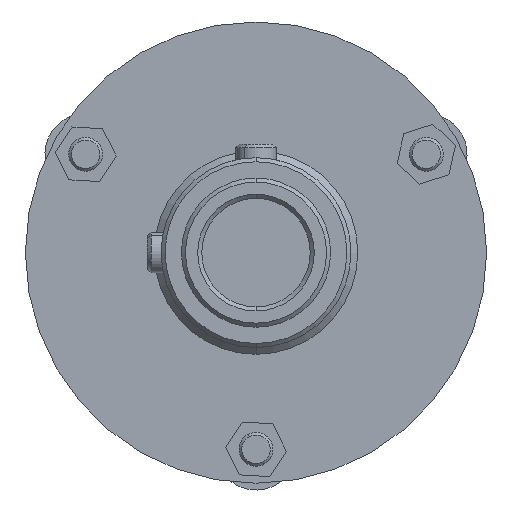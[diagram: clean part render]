
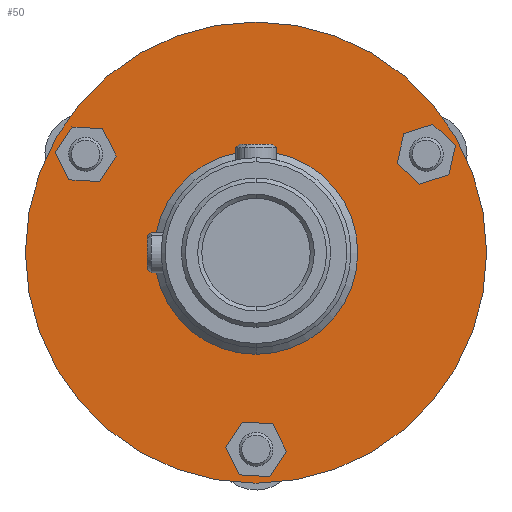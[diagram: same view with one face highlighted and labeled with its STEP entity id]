
A CAD part, front view. The second image highlights one B-rep face of the part: STEP entity #50.
In plain terms, the highlighted planar face has unit normal (0, -1, 0).
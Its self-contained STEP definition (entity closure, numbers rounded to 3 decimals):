
#5 = EDGE_CURVE ( 'NONE', #2207, #6497, #315, .T. ) ;
#8 = ORIENTED_EDGE ( 'NONE', *, *, #4093, .F. ) ;
#50 = ADVANCED_FACE ( 'NONE', ( #6236, #5612, #4276, #4075 ), #8196, .F. ) ;
#87 = DIRECTION ( 'NONE',  ( 0., 1., 0. ) ) ;
#189 = DIRECTION ( 'NONE',  ( 0., 1., 0. ) ) ;
#315 = CIRCLE ( 'NONE', #7388, 1.4 ) ;
#417 = CARTESIAN_POINT ( 'NONE',  ( 12.557, 0., 7.25 ) ) ;
#606 = VERTEX_POINT ( 'NONE', #7663 ) ;
#1178 = CARTESIAN_POINT ( 'NONE',  ( 0., 0., 0. ) ) ;
#1209 = DIRECTION ( 'NONE',  ( 0., 1., 0. ) ) ;
#1246 = DIRECTION ( 'NONE',  ( 0., 0., 1. ) ) ;
#1251 = CIRCLE ( 'NONE', #6535, 1.4 ) ;
#1352 = CARTESIAN_POINT ( 'NONE',  ( 0., 0., -13.1 ) ) ;
#1420 = AXIS2_PLACEMENT_3D ( 'NONE', #3985, #1209, #1246 ) ;
#1463 = CARTESIAN_POINT ( 'NONE',  ( 0., 0., -15.9 ) ) ;
#1475 = VERTEX_POINT ( 'NONE', #5638 ) ;
#1615 = ORIENTED_EDGE ( 'NONE', *, *, #3544, .T. ) ;
#1671 = AXIS2_PLACEMENT_3D ( 'NONE', #1178, #2548, #7843 ) ;
#1689 = EDGE_LOOP ( 'NONE', ( #7480, #3217 ) ) ;
#1751 = CIRCLE ( 'NONE', #1420, 17. ) ;
#2033 = ORIENTED_EDGE ( 'NONE', *, *, #8255, .F. ) ;
#2142 = CARTESIAN_POINT ( 'NONE',  ( -12.557, 0., 7.25 ) ) ;
#2152 = ORIENTED_EDGE ( 'NONE', *, *, #3029, .T. ) ;
#2186 = AXIS2_PLACEMENT_3D ( 'NONE', #6689, #87, #6038 ) ;
#2207 = VERTEX_POINT ( 'NONE', #1352 ) ;
#2228 = ORIENTED_EDGE ( 'NONE', *, *, #7511, .T. ) ;
#2498 = CIRCLE ( 'NONE', #5003, 1.4 ) ;
#2548 = DIRECTION ( 'NONE',  ( 0., 1., 0. ) ) ;
#2837 = EDGE_LOOP ( 'NONE', ( #2228, #3643 ) ) ;
#3029 = EDGE_CURVE ( 'NONE', #4954, #8223, #2498, .T. ) ;
#3217 = ORIENTED_EDGE ( 'NONE', *, *, #3275, .T. ) ;
#3275 = EDGE_CURVE ( 'NONE', #6497, #2207, #5082, .T. ) ;
#3451 = CARTESIAN_POINT ( 'NONE',  ( -12.557, 0., 7.25 ) ) ;
#3544 = EDGE_CURVE ( 'NONE', #8223, #4954, #1251, .T. ) ;
#3643 = ORIENTED_EDGE ( 'NONE', *, *, #4121, .T. ) ;
#3921 = CARTESIAN_POINT ( 'NONE',  ( 12.557, 0., 7.25 ) ) ;
#3985 = CARTESIAN_POINT ( 'NONE',  ( 0., 0., 0. ) ) ;
#4075 = FACE_OUTER_BOUND ( 'NONE', #7324, .T. ) ;
#4093 = EDGE_CURVE ( 'NONE', #6480, #606, #1751, .T. ) ;
#4098 = DIRECTION ( 'NONE',  ( 0., 0., 1. ) ) ;
#4121 = EDGE_CURVE ( 'NONE', #1475, #8134, #7150, .T. ) ;
#4227 = DIRECTION ( 'NONE',  ( 0., 0., 1. ) ) ;
#4276 = FACE_BOUND ( 'NONE', #2837, .T. ) ;
#4511 = DIRECTION ( 'NONE',  ( 0., 1., 0. ) ) ;
#4692 = CARTESIAN_POINT ( 'NONE',  ( 12.557, 0., 8.65 ) ) ;
#4787 = DIRECTION ( 'NONE',  ( 0., 0., 1. ) ) ;
#4938 = EDGE_LOOP ( 'NONE', ( #1615, #2152 ) ) ;
#4954 = VERTEX_POINT ( 'NONE', #5513 ) ;
#5003 = AXIS2_PLACEMENT_3D ( 'NONE', #3451, #6766, #4787 ) ;
#5082 = CIRCLE ( 'NONE', #2186, 1.4 ) ;
#5178 = DIRECTION ( 'NONE',  ( 0., 0., 1. ) ) ;
#5513 = CARTESIAN_POINT ( 'NONE',  ( -12.557, 0., 5.85 ) ) ;
#5612 = FACE_BOUND ( 'NONE', #4938, .T. ) ;
#5638 = CARTESIAN_POINT ( 'NONE',  ( 12.557, 0., 5.85 ) ) ;
#5664 = DIRECTION ( 'NONE',  ( 0., 0., 1. ) ) ;
#5782 = DIRECTION ( 'NONE',  ( 0., 1., 0. ) ) ;
#5930 = CIRCLE ( 'NONE', #6609, 1.4 ) ;
#6038 = DIRECTION ( 'NONE',  ( 0., 0., 1. ) ) ;
#6156 = CARTESIAN_POINT ( 'NONE',  ( 0., 0., -14.5 ) ) ;
#6226 = CARTESIAN_POINT ( 'NONE',  ( -12.557, 0., 8.65 ) ) ;
#6236 = FACE_BOUND ( 'NONE', #1689, .T. ) ;
#6345 = CARTESIAN_POINT ( 'NONE',  ( 0., 0., 0. ) ) ;
#6480 = VERTEX_POINT ( 'NONE', #7386 ) ;
#6497 = VERTEX_POINT ( 'NONE', #1463 ) ;
#6535 = AXIS2_PLACEMENT_3D ( 'NONE', #2142, #189, #4098 ) ;
#6609 = AXIS2_PLACEMENT_3D ( 'NONE', #417, #5782, #7766 ) ;
#6653 = AXIS2_PLACEMENT_3D ( 'NONE', #3921, #4511, #5178 ) ;
#6689 = CARTESIAN_POINT ( 'NONE',  ( 0., 0., -14.5 ) ) ;
#6766 = DIRECTION ( 'NONE',  ( 0., 1., 0. ) ) ;
#6776 = CIRCLE ( 'NONE', #1671, 17. ) ;
#7020 = DIRECTION ( 'NONE',  ( 0., 1., 0. ) ) ;
#7150 = CIRCLE ( 'NONE', #6653, 1.4 ) ;
#7324 = EDGE_LOOP ( 'NONE', ( #2033, #8 ) ) ;
#7386 = CARTESIAN_POINT ( 'NONE',  ( 0., 0., 17. ) ) ;
#7388 = AXIS2_PLACEMENT_3D ( 'NONE', #6156, #7475, #5664 ) ;
#7475 = DIRECTION ( 'NONE',  ( 0., 1., 0. ) ) ;
#7480 = ORIENTED_EDGE ( 'NONE', *, *, #5, .T. ) ;
#7511 = EDGE_CURVE ( 'NONE', #8134, #1475, #5930, .T. ) ;
#7663 = CARTESIAN_POINT ( 'NONE',  ( 0., 0., -17. ) ) ;
#7766 = DIRECTION ( 'NONE',  ( 0., 0., 1. ) ) ;
#7843 = DIRECTION ( 'NONE',  ( 0., 0., 1. ) ) ;
#8134 = VERTEX_POINT ( 'NONE', #4692 ) ;
#8196 = PLANE ( 'NONE',  #8431 ) ;
#8223 = VERTEX_POINT ( 'NONE', #6226 ) ;
#8255 = EDGE_CURVE ( 'NONE', #606, #6480, #6776, .T. ) ;
#8431 = AXIS2_PLACEMENT_3D ( 'NONE', #6345, #7020, #4227 ) ;
